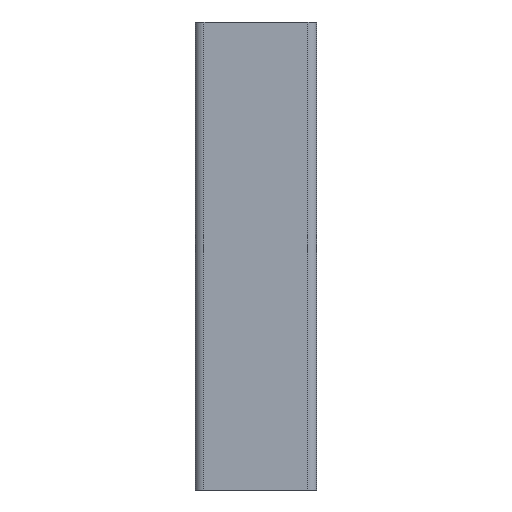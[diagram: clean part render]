
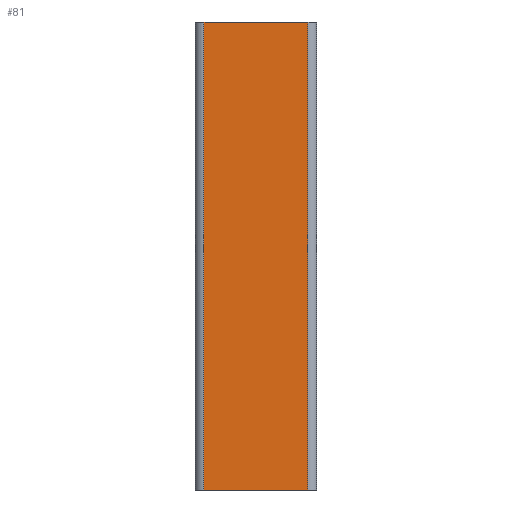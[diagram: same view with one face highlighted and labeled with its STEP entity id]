
A CAD part, left-side view. The second image highlights one B-rep face of the part: STEP entity #81.
In plain terms, the highlighted free-form (B-spline) face has degree [2, 1] with [3, 2] control points.
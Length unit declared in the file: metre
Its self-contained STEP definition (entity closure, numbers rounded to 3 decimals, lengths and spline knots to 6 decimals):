
#81=ADVANCED_FACE('',(#129),#1651,.T.);
#129=FACE_OUTER_BOUND('',#179,.T.);
#179=EDGE_LOOP('',(#293,#294,#295,#296));
#293=ORIENTED_EDGE('',*,*,#1340,.T.);
#294=ORIENTED_EDGE('',*,*,#1341,.T.);
#295=ORIENTED_EDGE('',*,*,#1342,.T.);
#296=ORIENTED_EDGE('',*,*,#1338,.F.);
#530=PCURVE('',#1650,#770);
#533=PCURVE('',#1651,#773);
#534=PCURVE('',#1651,#774);
#535=PCURVE('',#1651,#775);
#536=PCURVE('',#1651,#776);
#540=PCURVE('',#1652,#780);
#558=PCURVE('',#1627,#798);
#571=PCURVE('',#1628,#811);
#770=DEFINITIONAL_REPRESENTATION('',(#1010),#2876);
#773=DEFINITIONAL_REPRESENTATION('',(#1013),#2876);
#774=DEFINITIONAL_REPRESENTATION('',(#1014),#2876);
#775=DEFINITIONAL_REPRESENTATION('',(#1015),#2876);
#776=DEFINITIONAL_REPRESENTATION('',(#1016),#2876);
#780=DEFINITIONAL_REPRESENTATION('',(#1020),#2876);
#798=DEFINITIONAL_REPRESENTATION('',(#1466),#2876);
#811=DEFINITIONAL_REPRESENTATION('',(#1475),#2876);
#1010=B_SPLINE_CURVE_WITH_KNOTS('',1,(#2128,#2129),.UNSPECIFIED.,.F.,.F.,
(2,2),(0.,150.),.UNSPECIFIED.);
#1013=B_SPLINE_CURVE_WITH_KNOTS('',1,(#2140,#2141),.UNSPECIFIED.,.F.,.F.,
(2,2),(-91.325131,-88.482804),.UNSPECIFIED.);
#1014=B_SPLINE_CURVE_WITH_KNOTS('',1,(#2144,#2145),.UNSPECIFIED.,.F.,.F.,
(2,2),(0.,150.),.UNSPECIFIED.);
#1015=B_SPLINE_CURVE_WITH_KNOTS('',1,(#2149,#2150),.UNSPECIFIED.,.F.,.F.,
(2,2),(88.482804,91.325131),.UNSPECIFIED.);
#1016=B_SPLINE_CURVE_WITH_KNOTS('',1,(#2151,#2152),.UNSPECIFIED.,.F.,.F.,
(2,2),(0.,150.),.UNSPECIFIED.);
#1020=B_SPLINE_CURVE_WITH_KNOTS('',1,(#2169,#2170),.UNSPECIFIED.,.F.,.F.,
(2,2),(0.,150.),.UNSPECIFIED.);
#1218=SURFACE_CURVE('',#1458,(#530,#536),.PCURVE_S1.);
#1220=SURFACE_CURVE('',#1460,(#533,#558),.PCURVE_S1.);
#1221=SURFACE_CURVE('',#1461,(#534,#540),.PCURVE_S1.);
#1222=SURFACE_CURVE('',#1462,(#535,#571),.PCURVE_S1.);
#1338=EDGE_CURVE('',#1565,#1566,#1218,.T.);
#1340=EDGE_CURVE('',#1565,#1567,#1220,.T.);
#1341=EDGE_CURVE('',#1567,#1568,#1221,.T.);
#1342=EDGE_CURVE('',#1568,#1566,#1222,.T.);
#1458=(
BOUNDED_CURVE()
B_SPLINE_CURVE(1,(#2126,#2127),.UNSPECIFIED.,.F.,.F.)
B_SPLINE_CURVE_WITH_KNOTS((2,2),(0.,150.),.UNSPECIFIED.)
CURVE()
GEOMETRIC_REPRESENTATION_ITEM()
RATIONAL_B_SPLINE_CURVE((1.,1.))
REPRESENTATION_ITEM('')
);
#1460=(
BOUNDED_CURVE()
B_SPLINE_CURVE(2,(#2137,#2138,#2139),.UNSPECIFIED.,.F.,.F.)
B_SPLINE_CURVE_WITH_KNOTS((3,3),(-91.325131,-88.482804),
 .UNSPECIFIED.)
CURVE()
GEOMETRIC_REPRESENTATION_ITEM()
RATIONAL_B_SPLINE_CURVE((1.,1.,1.))
REPRESENTATION_ITEM('')
);
#1461=(
BOUNDED_CURVE()
B_SPLINE_CURVE(1,(#2142,#2143),.UNSPECIFIED.,.F.,.F.)
B_SPLINE_CURVE_WITH_KNOTS((2,2),(0.,150.),.UNSPECIFIED.)
CURVE()
GEOMETRIC_REPRESENTATION_ITEM()
RATIONAL_B_SPLINE_CURVE((1.,1.))
REPRESENTATION_ITEM('')
);
#1462=(
BOUNDED_CURVE()
B_SPLINE_CURVE(2,(#2146,#2147,#2148),.UNSPECIFIED.,.F.,.F.)
B_SPLINE_CURVE_WITH_KNOTS((3,3),(88.482804,91.325131),
 .UNSPECIFIED.)
CURVE()
GEOMETRIC_REPRESENTATION_ITEM()
RATIONAL_B_SPLINE_CURVE((1.,1.,1.))
REPRESENTATION_ITEM('')
);
#1466=(
BOUNDED_CURVE()
B_SPLINE_CURVE(2,(#2232,#2233,#2234),.UNSPECIFIED.,.F.,.F.)
B_SPLINE_CURVE_WITH_KNOTS((3,3),(-91.325131,-88.482804),
 .UNSPECIFIED.)
CURVE()
GEOMETRIC_REPRESENTATION_ITEM()
RATIONAL_B_SPLINE_CURVE((1.,1.,1.))
REPRESENTATION_ITEM('')
);
#1475=(
BOUNDED_CURVE()
B_SPLINE_CURVE(2,(#2267,#2268,#2269),.UNSPECIFIED.,.F.,.F.)
B_SPLINE_CURVE_WITH_KNOTS((3,3),(88.482804,91.325131),
 .UNSPECIFIED.)
CURVE()
GEOMETRIC_REPRESENTATION_ITEM()
RATIONAL_B_SPLINE_CURVE((1.,1.,1.))
REPRESENTATION_ITEM('')
);
#1565=VERTEX_POINT('',#2059);
#1566=VERTEX_POINT('',#2060);
#1567=VERTEX_POINT('',#2061);
#1568=VERTEX_POINT('',#2062);
#1627=B_SPLINE_SURFACE_WITH_KNOTS('',1,1,((#2043,#2044),(#2045,#2046)),
 .UNSPECIFIED.,.F.,.F.,.F.,(2,2),(2,2),(-66.75,20.75),
(-31.39446,16.821607),.UNSPECIFIED.);
#1628=B_SPLINE_SURFACE_WITH_KNOTS('',1,1,((#2047,#2048),(#2049,#2050)),
 .UNSPECIFIED.,.F.,.F.,.F.,(2,2),(2,2),(-31.39446,16.821607),
(-66.75,20.75),.UNSPECIFIED.);
#1650=(
BOUNDED_SURFACE()
B_SPLINE_SURFACE(2,1,((#2005,#2006),(#2007,#2008),(#2009,#2010)),
 .UNSPECIFIED.,.F.,.F.,.F.)
B_SPLINE_SURFACE_WITH_KNOTS((3,3),(2,2),(-99.179113,-91.325131),
(0.,150.),.UNSPECIFIED.)
GEOMETRIC_REPRESENTATION_ITEM()
RATIONAL_B_SPLINE_SURFACE(((1.,1.),(0.707,0.707),
(1.,1.)))
REPRESENTATION_ITEM('')
SURFACE()
);
#1651=(
BOUNDED_SURFACE()
B_SPLINE_SURFACE(2,1,((#2011,#2012),(#2013,#2014),(#2015,#2016)),
 .UNSPECIFIED.,.F.,.F.,.F.)
B_SPLINE_SURFACE_WITH_KNOTS((3,3),(2,2),(-91.325131,-88.482804),
(0.,150.),.UNSPECIFIED.)
GEOMETRIC_REPRESENTATION_ITEM()
RATIONAL_B_SPLINE_SURFACE(((1.,1.),(1.,1.),(1.,1.)))
REPRESENTATION_ITEM('')
SURFACE()
);
#1652=(
BOUNDED_SURFACE()
B_SPLINE_SURFACE(2,1,((#2017,#2018),(#2019,#2020),(#2021,#2022),(#2023,
#2024),(#2025,#2026)),.UNSPECIFIED.,.F.,.F.,.F.)
B_SPLINE_SURFACE_WITH_KNOTS((3,2,3),(2,2),(-88.482804,-84.932193,
-80.628822),(0.,150.),.UNSPECIFIED.)
GEOMETRIC_REPRESENTATION_ITEM()
RATIONAL_B_SPLINE_SURFACE(((1.,1.),(0.938,0.938),
(1.,1.),(0.909,0.909),(1.,1.)))
REPRESENTATION_ITEM('')
SURFACE()
);
#2005=CARTESIAN_POINT('',(-56139.739452,-4564.,-1.5));
#2006=CARTESIAN_POINT('',(-56139.739452,-4564.,268.5));
#2007=CARTESIAN_POINT('',(-56144.032345,-4564.,-1.5));
#2008=CARTESIAN_POINT('',(-56144.032345,-4564.,268.5));
#2009=CARTESIAN_POINT('',(-56144.032345,-4569.,-1.5));
#2010=CARTESIAN_POINT('',(-56144.032345,-4569.,268.5));
#2011=CARTESIAN_POINT('',(-56144.032345,-4569.,-1.5));
#2012=CARTESIAN_POINT('',(-56144.032345,-4569.,268.5));
#2013=CARTESIAN_POINT('',(-56144.032345,-4603.16993,-1.5));
#2014=CARTESIAN_POINT('',(-56144.032345,-4603.16993,268.5));
#2015=CARTESIAN_POINT('',(-56144.032345,-4629.,-1.5));
#2016=CARTESIAN_POINT('',(-56144.032345,-4629.,268.5));
#2017=CARTESIAN_POINT('',(-56144.032345,-4629.,-1.5));
#2018=CARTESIAN_POINT('',(-56144.032345,-4629.,268.5));
#2019=CARTESIAN_POINT('',(-56144.032345,-4630.853873,-1.5));
#2020=CARTESIAN_POINT('',(-56144.032345,-4630.853873,268.5));
#2021=CARTESIAN_POINT('',(-56142.994676,-4632.259632,-1.5));
#2022=CARTESIAN_POINT('',(-56142.994676,-4632.259632,268.5));
#2023=CARTESIAN_POINT('',(-56141.710014,-4634.,-1.5));
#2024=CARTESIAN_POINT('',(-56141.710014,-4634.,268.5));
#2025=CARTESIAN_POINT('',(-56139.739452,-4634.,-1.5));
#2026=CARTESIAN_POINT('',(-56139.739452,-4634.,268.5));
#2043=CARTESIAN_POINT('',(-56100.637885,-4555.25,-1.5));
#2044=CARTESIAN_POINT('',(-56148.853951,-4555.25,-1.5));
#2045=CARTESIAN_POINT('',(-56100.637885,-4642.75,-1.5));
#2046=CARTESIAN_POINT('',(-56148.853951,-4642.75,-1.5));
#2047=CARTESIAN_POINT('',(-56100.637885,-4555.25,268.5));
#2048=CARTESIAN_POINT('',(-56100.637885,-4642.75,268.5));
#2049=CARTESIAN_POINT('',(-56148.853951,-4555.25,268.5));
#2050=CARTESIAN_POINT('',(-56148.853951,-4642.75,268.5));
#2059=CARTESIAN_POINT('',(-56144.032345,-4569.,-1.5));
#2060=CARTESIAN_POINT('',(-56144.032345,-4569.,268.5));
#2061=CARTESIAN_POINT('',(-56144.032345,-4629.,-1.5));
#2062=CARTESIAN_POINT('',(-56144.032345,-4629.,268.5));
#2126=CARTESIAN_POINT('',(-56144.032345,-4569.,-1.5));
#2127=CARTESIAN_POINT('',(-56144.032345,-4569.,268.5));
#2128=CARTESIAN_POINT('',(-91.325,0.));
#2129=CARTESIAN_POINT('',(-91.325,150.));
#2137=CARTESIAN_POINT('',(-56144.032345,-4569.,-1.5));
#2138=CARTESIAN_POINT('',(-56144.032345,-4603.16993,-1.5));
#2139=CARTESIAN_POINT('',(-56144.032345,-4629.,-1.5));
#2140=CARTESIAN_POINT('',(-91.325,0.));
#2141=CARTESIAN_POINT('',(-88.483,0.));
#2142=CARTESIAN_POINT('',(-56144.032345,-4629.,-1.5));
#2143=CARTESIAN_POINT('',(-56144.032345,-4629.,268.5));
#2144=CARTESIAN_POINT('',(-88.483,0.));
#2145=CARTESIAN_POINT('',(-88.483,150.));
#2146=CARTESIAN_POINT('',(-56144.032345,-4629.,268.5));
#2147=CARTESIAN_POINT('',(-56144.032345,-4603.16993,268.5));
#2148=CARTESIAN_POINT('',(-56144.032345,-4569.,268.5));
#2149=CARTESIAN_POINT('',(-88.483,150.));
#2150=CARTESIAN_POINT('',(-91.325,150.));
#2151=CARTESIAN_POINT('',(-91.325,0.));
#2152=CARTESIAN_POINT('',(-91.325,150.));
#2169=CARTESIAN_POINT('',(-88.483,0.));
#2170=CARTESIAN_POINT('',(-88.483,150.));
#2232=CARTESIAN_POINT('',(-53.,12.));
#2233=CARTESIAN_POINT('',(-18.83,12.));
#2234=CARTESIAN_POINT('',(7.,12.));
#2267=CARTESIAN_POINT('',(12.,7.));
#2268=CARTESIAN_POINT('',(12.,-18.83));
#2269=CARTESIAN_POINT('',(12.,-53.));
#2876=(
GEOMETRIC_REPRESENTATION_CONTEXT(2)
PARAMETRIC_REPRESENTATION_CONTEXT()
REPRESENTATION_CONTEXT('pspace','')
);
